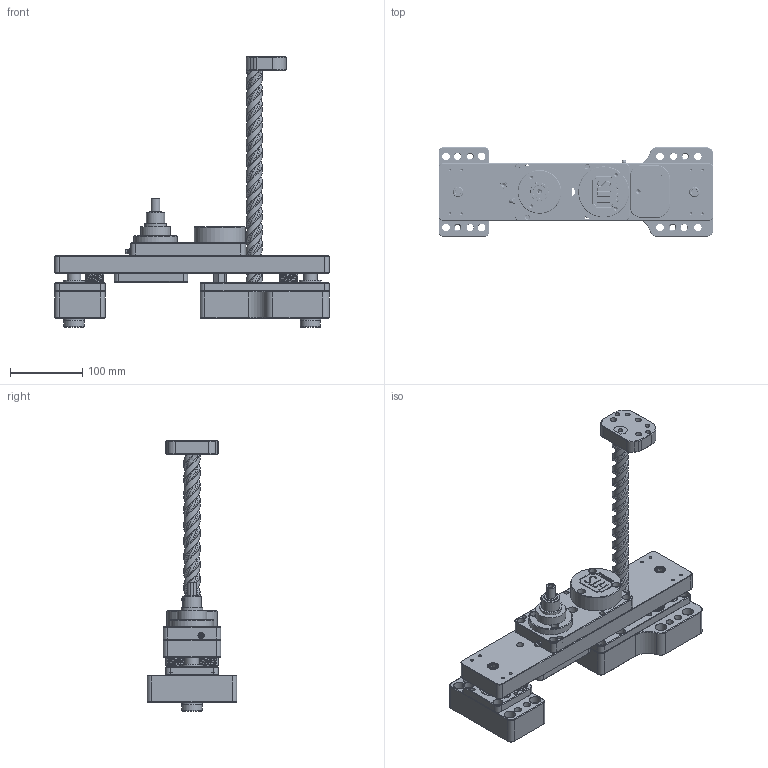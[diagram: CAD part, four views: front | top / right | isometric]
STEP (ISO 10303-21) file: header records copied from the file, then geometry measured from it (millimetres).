
FILE_DESCRIPTION(/* description */ ('Unknown'),/* implementation_level */ '2;1');
FILE_NAME(/* name */ '3100-9 in strk',/* time_stamp */ '2018-07-24T14:29:01-04:00',/* author */ ('Unknown'),/* organization */ ('Unknown'),/* preprocessor_version */ 'ST-DEVELOPER v16.7',/* originating_system */ 'DEX',/* authorisation */ $);
FILE_SCHEMA (('AUTOMOTIVE_DESIGN {1 0 10303 214 3 1 1}'));
Products named in the file (28): 3100-000 new std; 3107C-000C; Tap 6-32; 3118-000; 3126-001; 3127-001; 3022-632; 3107A-000C; 3107B-000C; 3129-200; 3012-000; 3147-000; 3106A-000-STD; 3106B-000-STD; 3011-009FA; 3025-000; 3020-032; 3008-000; 3136-168; 3017-000; 3137A-000-STD; 3137B-000-STD; 3121-000; 3138B-075; 3_8-16X750_SHCS; BUSHING-BU-_75ID-1_985LONG_BUSH; 3138-300; 3119-000
Assembly tree (35 placements, depth 2):
  3100-000 new std
    3107C-000C
    Tap 6-32
    3118-000
    3126-001
    3127-001
    3022-632
    3107A-000C
    3107B-000C
    3129-200  x4
    3012-000
    3147-000
    3106A-000-STD
    3106B-000-STD
    3011-009FA
    3025-000
    3020-032
    3008-000
    3136-168
    3017-000  x2
    3137A-000-STD
    3137B-000-STD
    3121-000
    3138B-075  x2
    3_8-16X750_SHCS  x2
    BUSHING-BU-_75ID-1_985LONG_BUSH  x2
    3138-300  x2
    3119-000
Bounding box: 380.37 x 123.83 x 374.27 mm (x, y, z)
Volume: 2316549.9 mm3; surface area: 559050 mm2
Topology: 35 solids, 35 shells, 1433 faces, 3812 edges, 2546 vertices
Faces by surface type: plane 563, cylinder 514, cone 227, bspline 78, torus 47, sphere 4
Full cylindrical faces by diameter (mm): 1.587 x4, 1.981 x4, 2.769 x1, 3.175 x1, 3.454 x6, 3.551 x6, 3.581 x1, 3.797 x8, 4.166 x5, 4.915 x1, 5.105 x8, 5.156 x12, 5.954 x2, 6.35 x25, 6.528 x12, 7.137 x1, 7.142 x9, 7.144 x9, 7.849 x1, 7.938 x18, 8.73 x1, 8.731 x3, 8.733 x9, 8.763 x1, 9.058 x1, 9.525 x10, 10.312 x4, 10.317 x18, 11.113 x14, 11.824 x1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
Entity records: 81127 total; most frequent: CARTESIAN_POINT 48801, DIRECTION 5118, ORIENTED_EDGE 4740, EDGE_CURVE 2370, AXIS2_PLACEMENT_3D 2067, FACE_BOUND 1894, EDGE_LOOP 1865, VERTEX_POINT 1776
